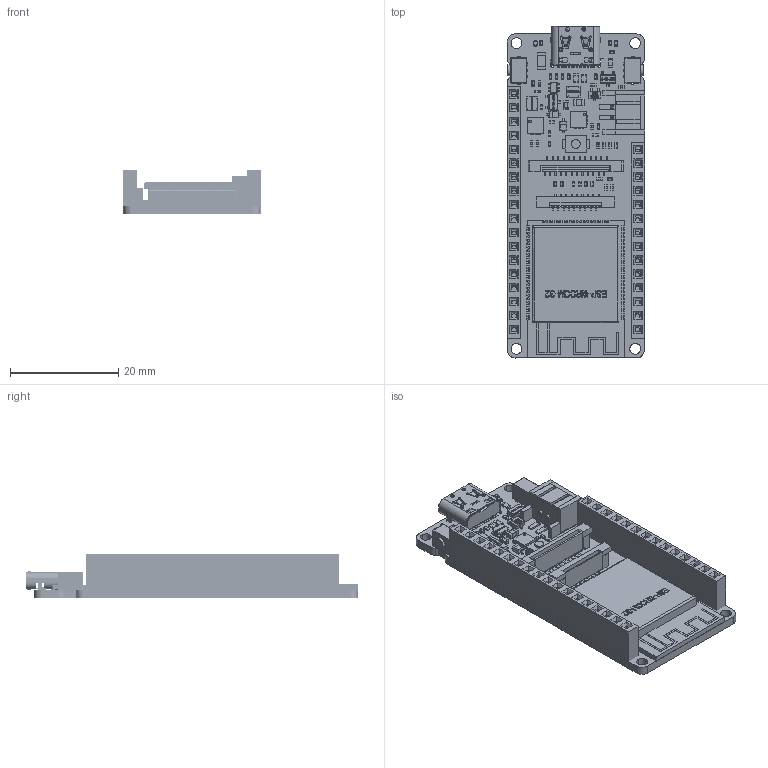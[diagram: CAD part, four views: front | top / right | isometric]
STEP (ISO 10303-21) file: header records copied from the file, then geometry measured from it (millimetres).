
FILE_DESCRIPTION(/* description */ (''),/* implementation_level */ '2;1');
FILE_NAME(/* name */ 'DFR097~1',/* time_stamp */ '2023-10-20T11:05:44+08:00',/* author */ (''),/* organization */ (''),/* preprocessor_version */ 'ST-DEVELOPER v16.5',/* originating_system */ '',/* authorisation */ '');
FILE_SCHEMA (('AUTOMOTIVE_DESIGN'));
Products named in the file (1): Document
Bounding box: 25.5 x 61.47 x 8.3 mm (x, y, z)
Volume: 5358.3 mm3; surface area: 9602.5 mm2
Topology: 222 solids, 241 shells, 8026 faces, 20694 edges, 12915 vertices
Faces by surface type: plane 4837, bspline 3189
Entity records: 298270 total; most frequent: CARTESIAN_POINT 164307, ORIENTED_EDGE 40575, EDGE_CURVE 20331, B_SPLINE_CURVE_WITH_KNOTS 17060, VERTEX_POINT 12915, EDGE_LOOP 8426, ADVANCED_FACE 8026, FACE_OUTER_BOUND 8026
